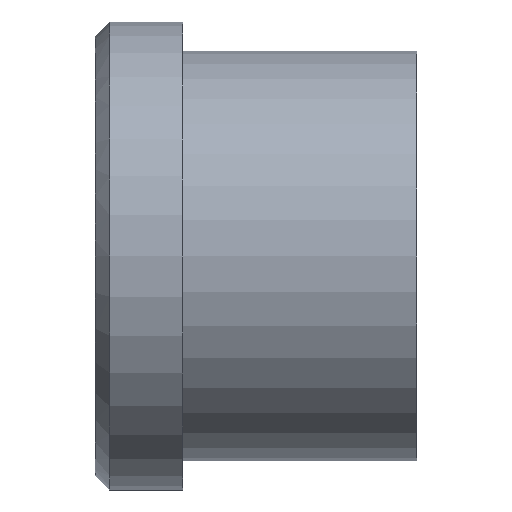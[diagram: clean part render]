
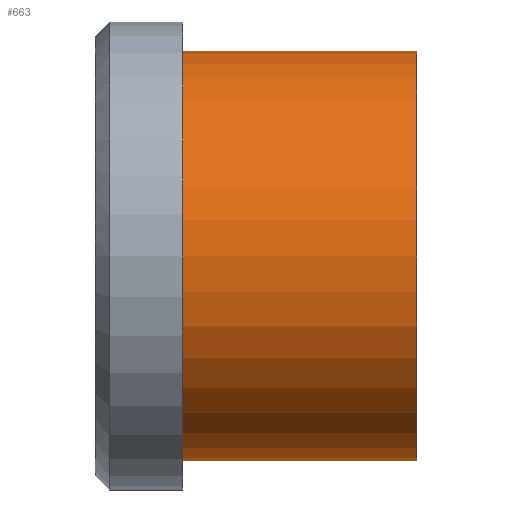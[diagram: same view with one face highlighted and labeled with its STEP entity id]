
A CAD part, front view. The second image highlights one B-rep face of the part: STEP entity #663.
In plain terms, the highlighted cylindrical face has radius 14 mm (diameter 28 mm), a partial arc.
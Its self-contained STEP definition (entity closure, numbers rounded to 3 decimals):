
#501=CARTESIAN_POINT('Vertex',(0.,0.,-14.)) ;
#506=CARTESIAN_POINT('Axis2P3D Location',(0.,0.,0.)) ;
#510=CARTESIAN_POINT('Vertex',(0.,-14.,0.)) ;
#513=CARTESIAN_POINT('Axis2P3D Location',(0.,0.,0.)) ;
#517=CARTESIAN_POINT('Vertex',(0.,0.,14.)) ;
#603=CARTESIAN_POINT('Line Origine',(16.,0.,14.)) ;
#607=CARTESIAN_POINT('Vertex',(16.,0.,14.)) ;
#621=CARTESIAN_POINT('Vertex',(16.,0.,-14.)) ;
#624=CARTESIAN_POINT('Line Origine',(16.,0.,-14.)) ;
#638=CARTESIAN_POINT('Axis2P3D Location',(16.,0.,0.)) ;
#643=CARTESIAN_POINT('Axis2P3D Location',(16.,0.,0.)) ;
#647=CARTESIAN_POINT('Vertex',(16.,-14.,0.)) ;
#650=CARTESIAN_POINT('Axis2P3D Location',(16.,0.,0.)) ;
#507=DIRECTION('Axis2P3D Direction',(1.,0.,-0.)) ;
#514=DIRECTION('Axis2P3D Direction',(1.,0.,-0.)) ;
#604=DIRECTION('Vector Direction',(-1.,0.,0.)) ;
#625=DIRECTION('Vector Direction',(-1.,0.,0.)) ;
#639=DIRECTION('Axis2P3D Direction',(-1.,-0.,-0.)) ;
#640=DIRECTION('Axis2P3D XDirection',(0.,0.,-1.)) ;
#644=DIRECTION('Axis2P3D Direction',(-1.,-0.,-0.)) ;
#651=DIRECTION('Axis2P3D Direction',(-1.,-0.,-0.)) ;
#508=AXIS2_PLACEMENT_3D('Circle Axis2P3D',#506,#507,$) ;
#515=AXIS2_PLACEMENT_3D('Circle Axis2P3D',#513,#514,$) ;
#641=AXIS2_PLACEMENT_3D('Cylinder Axis2P3D',#638,#639,#640) ;
#645=AXIS2_PLACEMENT_3D('Circle Axis2P3D',#643,#644,$) ;
#652=AXIS2_PLACEMENT_3D('Circle Axis2P3D',#650,#651,$) ;
#656=ORIENTED_EDGE('',*,*,#628,.T.) ;
#657=ORIENTED_EDGE('',*,*,#649,.F.) ;
#658=ORIENTED_EDGE('',*,*,#654,.F.) ;
#659=ORIENTED_EDGE('',*,*,#609,.T.) ;
#660=ORIENTED_EDGE('',*,*,#519,.T.) ;
#661=ORIENTED_EDGE('',*,*,#512,.T.) ;
#605=VECTOR('Line Direction',#604,1.) ;
#626=VECTOR('Line Direction',#625,1.) ;
#663=ADVANCED_FACE('353-20X22',(#662),#642,.T.) ;
#509=CIRCLE('generated circle',#508,14.) ;
#516=CIRCLE('generated circle',#515,14.) ;
#646=CIRCLE('generated circle',#645,14.) ;
#653=CIRCLE('generated circle',#652,14.) ;
#642=CYLINDRICAL_SURFACE('generated cylinder',#641,14.) ;
#512=EDGE_CURVE('',#511,#502,#509,.T.) ;
#519=EDGE_CURVE('',#518,#511,#516,.T.) ;
#609=EDGE_CURVE('',#608,#518,#606,.T.) ;
#628=EDGE_CURVE('',#502,#622,#627,.F.) ;
#649=EDGE_CURVE('',#648,#622,#646,.F.) ;
#654=EDGE_CURVE('',#608,#648,#653,.F.) ;
#655=EDGE_LOOP('',(#656,#657,#658,#659,#660,#661)) ;
#662=FACE_OUTER_BOUND('',#655,.T.) ;
#606=LINE('Line',#603,#605) ;
#627=LINE('Line',#624,#626) ;
#502=VERTEX_POINT('',#501) ;
#511=VERTEX_POINT('',#510) ;
#518=VERTEX_POINT('',#517) ;
#608=VERTEX_POINT('',#607) ;
#622=VERTEX_POINT('',#621) ;
#648=VERTEX_POINT('',#647) ;
